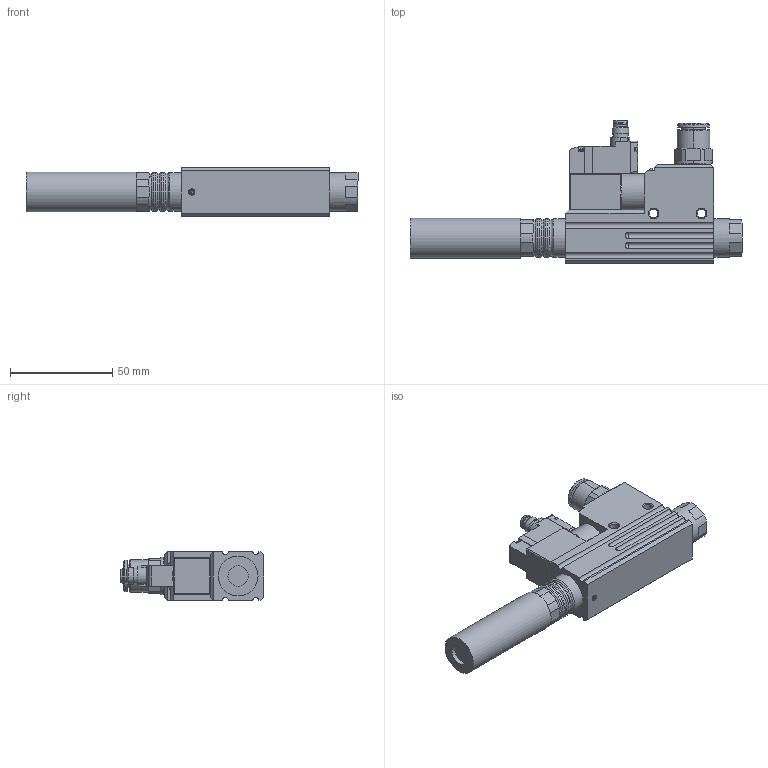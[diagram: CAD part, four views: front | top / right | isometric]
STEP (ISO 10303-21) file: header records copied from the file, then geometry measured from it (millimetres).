
FILE_DESCRIPTION (( 'STEP AP214' ), '1' );
FILE_NAME ('SIMP - VCR-2 250 14 EV.STEP', '2023-01-09T12:48:22', ( '' ), ( '' ), 'SwSTEP 2.0', 'SolidWorks 2021', '' );
FILE_SCHEMA (( 'AUTOMOTIVE_DESIGN' ));
Length unit declared in the file: millimetre
Products named in the file (1): SIMP - VCR-2 250 14 EV
Bounding box: 162.66 x 70.21 x 24 mm (x, y, z)
Volume: 102722.5 mm3; surface area: 34862.2 mm2
Topology: 9 solids, 9 shells, 724 faces, 1805 edges, 1143 vertices
Faces by surface type: plane 364, cylinder 217, cone 81, bspline 29, torus 27, sphere 6
Full cylindrical faces by diameter (mm): 1 x3, 1.2 x3, 1.5 x2, 1.6 x2, 1.8 x2, 3.1 x2, 3.8 x6, 4.2 x2, 5 x10, 5.8 x1, 6.6 x1, 6.9 x1, 7 x1, 7.8 x1, 8 x1, 9 x1, 10 x1, 11 x1, 11.3 x1, 11.8 x8, 12.2 x1, 14 x2, 14.2 x1, 14.85 x3, 14.9 x1, 16.9 x1, 18.2 x1, 18.9 x4, 19.5 x1
Entity records: 41284 total; most frequent: CARTESIAN_POINT 17607, DIRECTION 3232, ORIENTED_EDGE 3212, EDGE_CURVE 1606, AXIS2_PLACEMENT_3D 1190, VERTEX_POINT 1065, EDGE_LOOP 887, LINE 852
